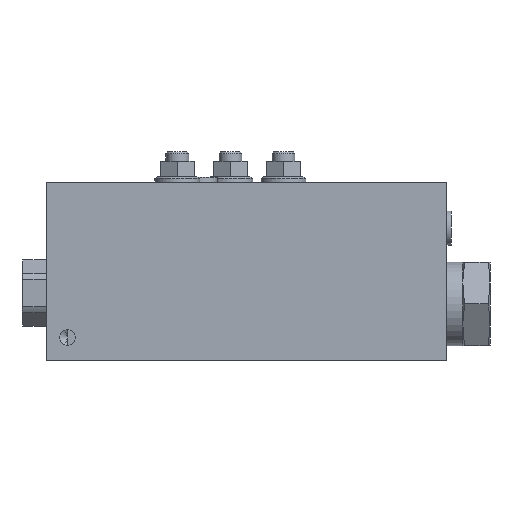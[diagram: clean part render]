
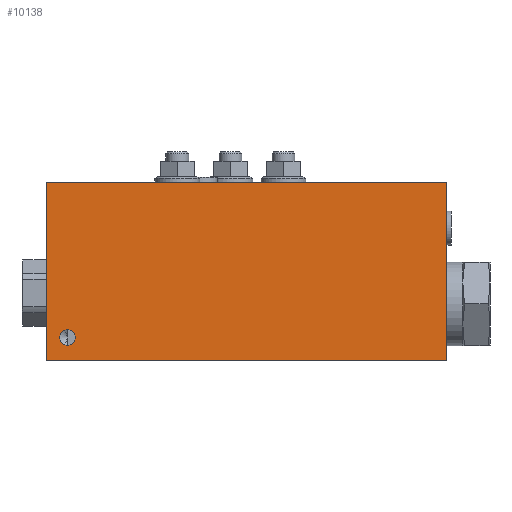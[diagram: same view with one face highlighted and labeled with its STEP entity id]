
A CAD part, front view. The second image highlights one B-rep face of the part: STEP entity #10138.
In plain terms, the highlighted planar face has unit normal (0, -1, 0).
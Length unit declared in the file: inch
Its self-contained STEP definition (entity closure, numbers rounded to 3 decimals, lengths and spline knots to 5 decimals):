
#561=FACE_BOUND('',#1987,.T.);
#946=CIRCLE('',#10948,0.1285);
#1283=FACE_OUTER_BOUND('',#1986,.T.);
#1986=EDGE_LOOP('',(#7246,#7247,#7248,#7249));
#1987=EDGE_LOOP('',(#7250));
#2542=LINE('',#14001,#3288);
#2688=LINE('',#15465,#3434);
#2691=LINE('',#15477,#3437);
#2692=LINE('',#15478,#3438);
#3288=VECTOR('',#11615,6.6);
#3434=VECTOR('',#12383,2.938);
#3437=VECTOR('',#12394,2.938);
#3438=VECTOR('',#12395,6.6);
#4031=VERTEX_POINT('',#13998);
#4032=VERTEX_POINT('',#14000);
#4385=VERTEX_POINT('',#15464);
#4390=VERTEX_POINT('',#15476);
#4391=VERTEX_POINT('',#15479);
#4989=EDGE_CURVE('',#4032,#4031,#2542,.T.);
#5471=EDGE_CURVE('',#4032,#4385,#2688,.T.);
#5477=EDGE_CURVE('',#4031,#4390,#2691,.T.);
#5478=EDGE_CURVE('',#4385,#4390,#2692,.T.);
#5479=EDGE_CURVE('',#4391,#4391,#946,.T.);
#7246=ORIENTED_EDGE('',*,*,#4989,.T.);
#7247=ORIENTED_EDGE('',*,*,#5477,.T.);
#7248=ORIENTED_EDGE('',*,*,#5478,.F.);
#7249=ORIENTED_EDGE('',*,*,#5471,.F.);
#7250=ORIENTED_EDGE('',*,*,#5479,.T.);
#9061=PLANE('',#10947);
#10138=ADVANCED_FACE('',(#1283,#561),#9061,.T.);
#10947=AXIS2_PLACEMENT_3D('',#15475,#12392,#12393);
#10948=AXIS2_PLACEMENT_3D('',#15480,#12396,#12397);
#11615=DIRECTION('',(-1.,0.,0.));
#12383=DIRECTION('',(0.,0.,-1.));
#12392=DIRECTION('center_axis',(0.,-1.,0.));
#12393=DIRECTION('ref_axis',(-1.,0.,0.));
#12394=DIRECTION('',(0.,0.,-1.));
#12395=DIRECTION('',(-1.,0.,0.));
#12396=DIRECTION('center_axis',(0.,1.,0.));
#12397=DIRECTION('ref_axis',(0.,0.,1.));
#13998=CARTESIAN_POINT('',(-6.12616,0.58869,2.938));
#14000=CARTESIAN_POINT('',(0.47384,0.58869,2.938));
#14001=CARTESIAN_POINT('',(0.47384,0.58869,2.938));
#15464=CARTESIAN_POINT('',(0.47384,0.58869,0.));
#15465=CARTESIAN_POINT('',(0.47384,0.58869,2.938));
#15475=CARTESIAN_POINT('Origin',(0.47384,0.58869,2.938));
#15476=CARTESIAN_POINT('',(-6.12616,0.58869,0.));
#15477=CARTESIAN_POINT('',(-6.12616,0.58869,2.938));
#15478=CARTESIAN_POINT('',(0.47384,0.58869,0.));
#15479=CARTESIAN_POINT('',(-5.77616,0.58869,0.2465));
#15480=CARTESIAN_POINT('Origin',(-5.77616,0.58869,0.375));
